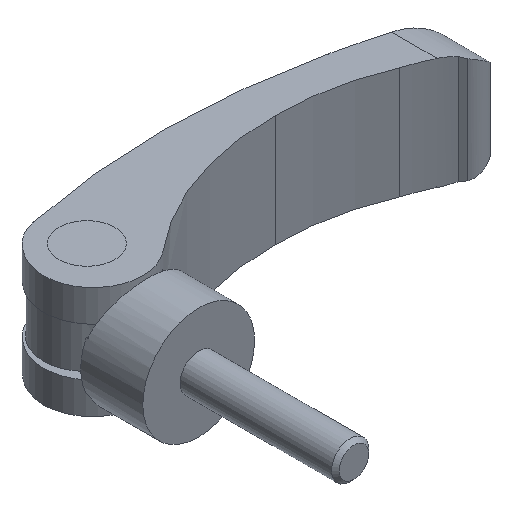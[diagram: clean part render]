
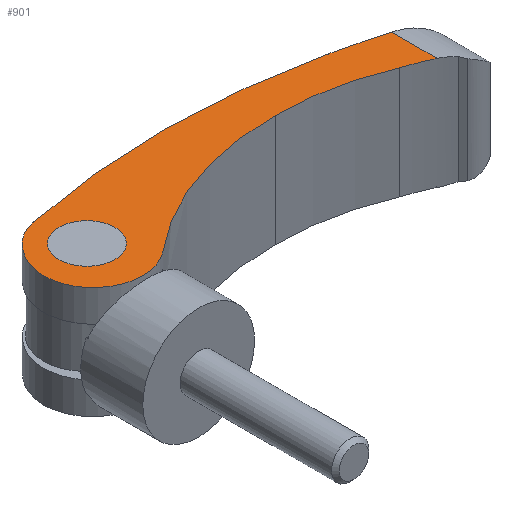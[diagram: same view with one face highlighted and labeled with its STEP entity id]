
A CAD part, isometric view. The second image highlights one B-rep face of the part: STEP entity #901.
In plain terms, the highlighted planar face has unit normal (0, 0, 1).
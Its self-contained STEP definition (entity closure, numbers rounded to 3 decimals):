
#25=FACE_BOUND('',#270,.T.);
#78=LINE('',#1710,#119);
#119=VECTOR('',#1174,10.);
#211=FACE_OUTER_BOUND('',#269,.T.);
#269=EDGE_LOOP('',(#723,#724,#725,#726,#727,#728,#729,#730));
#270=EDGE_LOOP('',(#731));
#309=CIRCLE('',#986,4.5);
#320=CIRCLE('',#1011,30.933);
#322=CIRCLE('',#1014,224.179);
#323=CIRCLE('',#1015,113.);
#324=CIRCLE('',#1016,7.391);
#325=CIRCLE('',#1017,8.);
#326=CIRCLE('',#1018,42.);
#327=CIRCLE('',#1019,40.);
#375=VERTEX_POINT('',#1645);
#379=VERTEX_POINT('',#1656);
#385=VERTEX_POINT('',#1701);
#407=VERTEX_POINT('',#1847);
#409=VERTEX_POINT('',#1853);
#410=VERTEX_POINT('',#1855);
#411=VERTEX_POINT('',#1857);
#412=VERTEX_POINT('',#1859);
#413=VERTEX_POINT('',#1861);
#478=EDGE_CURVE('',#375,#375,#309,.T.);
#489=EDGE_CURVE('',#385,#379,#78,.T.);
#519=EDGE_CURVE('',#379,#407,#320,.T.);
#522=EDGE_CURVE('',#409,#385,#322,.T.);
#523=EDGE_CURVE('',#410,#409,#323,.T.);
#524=EDGE_CURVE('',#411,#410,#324,.T.);
#525=EDGE_CURVE('',#412,#411,#325,.T.);
#526=EDGE_CURVE('',#413,#412,#326,.T.);
#527=EDGE_CURVE('',#407,#413,#327,.T.);
#723=ORIENTED_EDGE('',*,*,#489,.F.);
#724=ORIENTED_EDGE('',*,*,#522,.F.);
#725=ORIENTED_EDGE('',*,*,#523,.F.);
#726=ORIENTED_EDGE('',*,*,#524,.F.);
#727=ORIENTED_EDGE('',*,*,#525,.F.);
#728=ORIENTED_EDGE('',*,*,#526,.F.);
#729=ORIENTED_EDGE('',*,*,#527,.F.);
#730=ORIENTED_EDGE('',*,*,#519,.F.);
#731=ORIENTED_EDGE('',*,*,#478,.T.);
#808=PLANE('',#1013);
#901=ADVANCED_FACE('',(#211,#25),#808,.T.);
#986=AXIS2_PLACEMENT_3D('',#1647,#1161,#1162);
#1011=AXIS2_PLACEMENT_3D('',#1848,#1223,#1224);
#1013=AXIS2_PLACEMENT_3D('',#1852,#1228,#1229);
#1014=AXIS2_PLACEMENT_3D('',#1854,#1230,#1231);
#1015=AXIS2_PLACEMENT_3D('',#1856,#1232,#1233);
#1016=AXIS2_PLACEMENT_3D('',#1858,#1234,#1235);
#1017=AXIS2_PLACEMENT_3D('',#1860,#1236,#1237);
#1018=AXIS2_PLACEMENT_3D('',#1862,#1238,#1239);
#1019=AXIS2_PLACEMENT_3D('',#1863,#1240,#1241);
#1161=DIRECTION('center_axis',(0.,0.,-1.));
#1162=DIRECTION('ref_axis',(-1.,0.,0.));
#1174=DIRECTION('',(0.,-1.,0.));
#1223=DIRECTION('center_axis',(0.,0.,1.));
#1224=DIRECTION('ref_axis',(-0.503,-0.864,0.));
#1228=DIRECTION('center_axis',(0.,0.,1.));
#1229=DIRECTION('ref_axis',(1.,0.,0.));
#1230=DIRECTION('center_axis',(0.,0.,-1.));
#1231=DIRECTION('ref_axis',(0.294,0.956,0.));
#1232=DIRECTION('center_axis',(0.,0.,-1.));
#1233=DIRECTION('ref_axis',(0.215,0.977,0.));
#1234=DIRECTION('center_axis',(0.,0.,-1.));
#1235=DIRECTION('ref_axis',(-0.174,0.985,0.));
#1236=DIRECTION('center_axis',(0.,0.,-1.));
#1237=DIRECTION('ref_axis',(-0.762,0.648,0.));
#1238=DIRECTION('center_axis',(0.,0.,1.));
#1239=DIRECTION('ref_axis',(-0.022,-1.,0.));
#1240=DIRECTION('center_axis',(0.,0.,1.));
#1241=DIRECTION('ref_axis',(-0.401,-0.916,0.));
#1645=CARTESIAN_POINT('',(4.5,18.,9.));
#1647=CARTESIAN_POINT('Origin',(0.,18.,9.));
#1656=CARTESIAN_POINT('',(54.,15.611,9.));
#1701=CARTESIAN_POINT('',(54.,22.965,9.));
#1710=CARTESIAN_POINT('',(54.,18.,9.));
#1847=CARTESIAN_POINT('',(49.674,17.292,9.));
#1848=CARTESIAN_POINT('Origin',(40.666,-12.3,9.));
#1852=CARTESIAN_POINT('Origin',(26.584,20.352,9.));
#1853=CARTESIAN_POINT('',(45.946,24.982,9.));
#1854=CARTESIAN_POINT('Origin',(-4.483,-193.452,9.));
#1855=CARTESIAN_POINT('',(-1.283,25.279,9.));
#1856=CARTESIAN_POINT('Origin',(21.637,-85.372,9.));
#1857=CARTESIAN_POINT('',(-6.093,22.184,9.));
#1858=CARTESIAN_POINT('Origin',(0.,18.,9.));
#1859=CARTESIAN_POINT('',(4.967,10.728,9.));
#1860=CARTESIAN_POINT('Origin',(0.,17.,9.));
#1861=CARTESIAN_POINT('',(33.015,20.644,9.));
#1862=CARTESIAN_POINT('Origin',(32.082,-21.346,9.));
#1863=CARTESIAN_POINT('Origin',(33.634,-19.351,9.));
